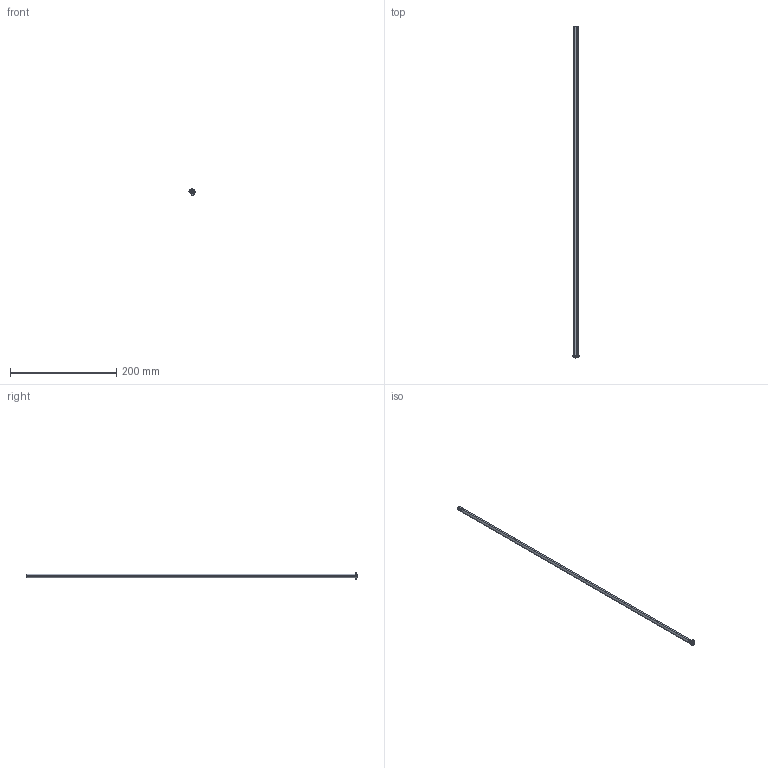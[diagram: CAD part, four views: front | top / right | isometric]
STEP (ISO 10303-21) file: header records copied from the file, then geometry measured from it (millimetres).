
FILE_DESCRIPTION (( 'STEP AP203' ), '1' );
FILE_NAME ('2106-4008-6240 assembly.STEP', '2022-01-31T14:12:01', ( '' ), ( '' ), 'SwSTEP 2.0', 'SolidWorks 2016', '' );
FILE_SCHEMA (( 'CONFIG_CONTROL_DESIGN' ));
Length unit declared in the file: millimetre
Products named in the file (3): 2106-4008-6240 assembly; 2106-4008-6240; 2106 Series 8mm REX e-clip
Assembly tree (2 placements, depth 2):
  2106-4008-6240 assembly
    2106-4008-6240
    2106 Series 8mm REX e-clip
Bounding box: 12.07 x 624 x 12.28 mm (x, y, z)
Volume: 26210.6 mm3; surface area: 15772.3 mm2
Topology: 2 solids, 2 shells, 220 faces, 624 edges, 408 vertices
Faces by surface type: cylinder 168, plane 26, cone 22, bspline 4
Entity records: 13217 total; most frequent: CARTESIAN_POINT 8047, ORIENTED_EDGE 1240, DIRECTION 846, EDGE_CURVE 620, VERTEX_POINT 408, AXIS2_PLACEMENT_3D 315, EDGE_LOOP 224, FACE_OUTER_BOUND 220
